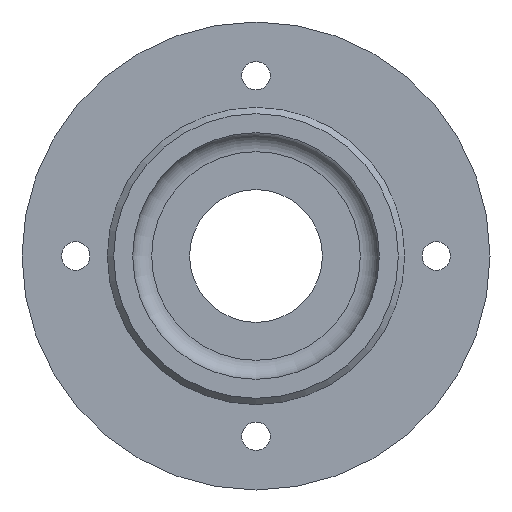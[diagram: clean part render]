
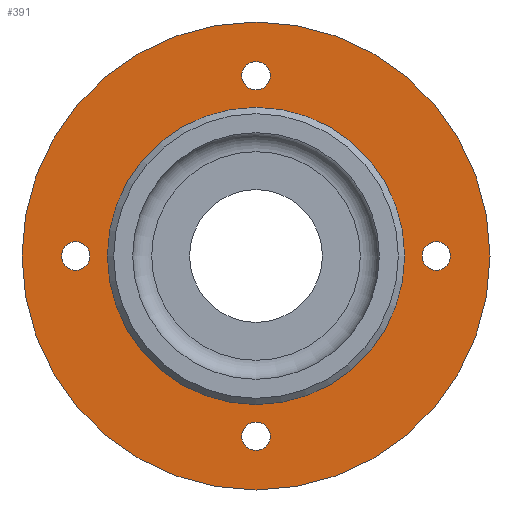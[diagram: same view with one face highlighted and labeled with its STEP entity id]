
A CAD part, left-side view. The second image highlights one B-rep face of the part: STEP entity #391.
In plain terms, the highlighted planar face has unit normal (-1, 0, 0).
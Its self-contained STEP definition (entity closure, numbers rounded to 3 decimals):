
#67=FACE_BOUND('',#133,.T.);
#68=FACE_BOUND('',#134,.T.);
#69=FACE_BOUND('',#135,.T.);
#70=FACE_BOUND('',#136,.T.);
#71=FACE_BOUND('',#137,.T.);
#99=FACE_OUTER_BOUND('',#132,.T.);
#132=EDGE_LOOP('',(#338));
#133=EDGE_LOOP('',(#339));
#134=EDGE_LOOP('',(#340));
#135=EDGE_LOOP('',(#341));
#136=EDGE_LOOP('',(#342));
#137=EDGE_LOOP('',(#343));
#149=CIRCLE('',#424,2.25);
#153=CIRCLE('',#431,2.25);
#157=CIRCLE('',#438,2.25);
#161=CIRCLE('',#445,2.25);
#175=CIRCLE('',#469,23.5);
#176=CIRCLE('',#471,37.);
#184=VERTEX_POINT('',#628);
#188=VERTEX_POINT('',#641);
#192=VERTEX_POINT('',#654);
#196=VERTEX_POINT('',#667);
#208=VERTEX_POINT('',#708);
#209=VERTEX_POINT('',#712);
#218=EDGE_CURVE('',#184,#184,#149,.T.);
#224=EDGE_CURVE('',#188,#188,#153,.T.);
#230=EDGE_CURVE('',#192,#192,#157,.T.);
#236=EDGE_CURVE('',#196,#196,#161,.T.);
#254=EDGE_CURVE('',#208,#208,#175,.T.);
#256=EDGE_CURVE('',#209,#209,#176,.T.);
#338=ORIENTED_EDGE('',*,*,#256,.F.);
#339=ORIENTED_EDGE('',*,*,#218,.T.);
#340=ORIENTED_EDGE('',*,*,#224,.T.);
#341=ORIENTED_EDGE('',*,*,#230,.T.);
#342=ORIENTED_EDGE('',*,*,#236,.T.);
#343=ORIENTED_EDGE('',*,*,#254,.T.);
#367=PLANE('',#470);
#391=ADVANCED_FACE('',(#99,#67,#68,#69,#70,#71),#367,.T.);
#424=AXIS2_PLACEMENT_3D('',#630,#495,#496);
#431=AXIS2_PLACEMENT_3D('',#643,#511,#512);
#438=AXIS2_PLACEMENT_3D('',#656,#527,#528);
#445=AXIS2_PLACEMENT_3D('',#669,#543,#544);
#469=AXIS2_PLACEMENT_3D('',#709,#595,#596);
#470=AXIS2_PLACEMENT_3D('',#711,#598,#599);
#471=AXIS2_PLACEMENT_3D('',#713,#600,#601);
#495=DIRECTION('center_axis',(1.,0.,0.));
#496=DIRECTION('ref_axis',(0.,-1.,0.));
#511=DIRECTION('center_axis',(1.,0.,0.));
#512=DIRECTION('ref_axis',(0.,0.,1.));
#527=DIRECTION('center_axis',(1.,0.,0.));
#528=DIRECTION('ref_axis',(0.,1.,0.));
#543=DIRECTION('center_axis',(1.,0.,0.));
#544=DIRECTION('ref_axis',(0.,0.,-1.));
#595=DIRECTION('center_axis',(1.,0.,0.));
#596=DIRECTION('ref_axis',(0.,0.,-1.));
#598=DIRECTION('center_axis',(-1.,0.,0.));
#599=DIRECTION('ref_axis',(0.,0.,1.));
#600=DIRECTION('center_axis',(1.,0.,0.));
#601=DIRECTION('ref_axis',(0.,0.,-1.));
#628=CARTESIAN_POINT('',(4.,2.25,-28.5));
#630=CARTESIAN_POINT('Origin',(4.,0.,-28.5));
#641=CARTESIAN_POINT('',(4.,-28.5,-2.25));
#643=CARTESIAN_POINT('Origin',(4.,-28.5,0.));
#654=CARTESIAN_POINT('',(4.,-2.25,28.5));
#656=CARTESIAN_POINT('Origin',(4.,0.,28.5));
#667=CARTESIAN_POINT('',(4.,28.5,2.25));
#669=CARTESIAN_POINT('Origin',(4.,28.5,0.));
#708=CARTESIAN_POINT('',(4.,-23.5,0.));
#709=CARTESIAN_POINT('Origin',(4.,0.,0.));
#711=CARTESIAN_POINT('Origin',(4.,37.,0.));
#712=CARTESIAN_POINT('',(4.,-37.,0.));
#713=CARTESIAN_POINT('Origin',(4.,0.,0.));
